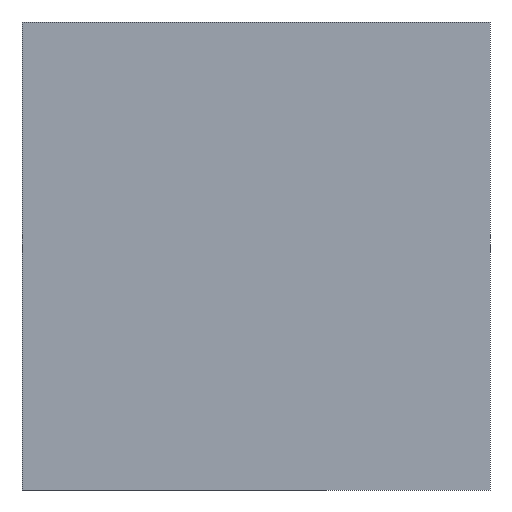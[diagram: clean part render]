
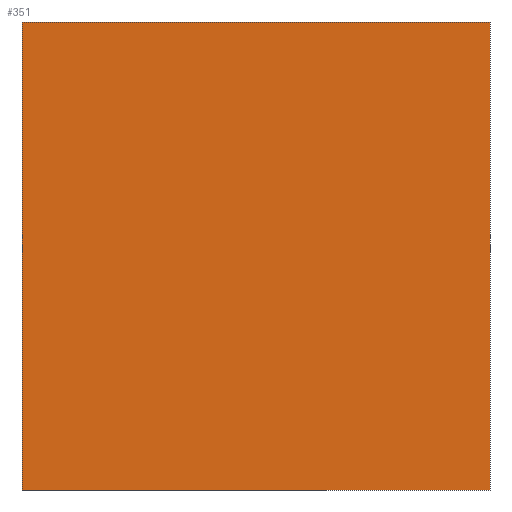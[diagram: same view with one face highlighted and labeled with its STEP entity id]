
A CAD part, left-side view. The second image highlights one B-rep face of the part: STEP entity #351.
In plain terms, the highlighted planar face has unit normal (-1, 0, 0).
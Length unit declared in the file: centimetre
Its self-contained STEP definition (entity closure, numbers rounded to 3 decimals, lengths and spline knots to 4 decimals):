
#26 = VERTEX_POINT ( 'NONE', #495 ) ;
#30 = VERTEX_POINT ( 'NONE', #498 ) ;
#51 = EDGE_CURVE ( 'NONE', #30, #233, #214, .T. ) ;
#59 = CARTESIAN_POINT ( 'NONE',  ( 0., 1000., 1000. ) ) ;
#61 = CARTESIAN_POINT ( 'NONE',  ( 0., 0., 0. ) ) ;
#65 = VECTOR ( 'NONE', #73, 100. ) ;
#73 = DIRECTION ( 'NONE',  ( 0., 0., -1. ) ) ;
#85 = PLANE ( 'NONE',  #117 ) ;
#117 = AXIS2_PLACEMENT_3D ( 'NONE', #443, #318, #152 ) ;
#121 = LINE ( 'NONE', #272, #422 ) ;
#124 = LINE ( 'NONE', #411, #65 ) ;
#152 = DIRECTION ( 'NONE',  ( 0., 0., -1. ) ) ;
#153 = ORIENTED_EDGE ( 'NONE', *, *, #159, .F. ) ;
#159 = EDGE_CURVE ( 'NONE', #30, #26, #432, .T. ) ;
#183 = VECTOR ( 'NONE', #256, 100. ) ;
#214 = LINE ( 'NONE', #298, #183 ) ;
#229 = VERTEX_POINT ( 'NONE', #61 ) ;
#233 = VERTEX_POINT ( 'NONE', #393 ) ;
#236 = DIRECTION ( 'NONE',  ( 0., -1., 0. ) ) ;
#238 = EDGE_LOOP ( 'NONE', ( #363, #277, #153, #285 ) ) ;
#256 = DIRECTION ( 'NONE',  ( 0., 0., -1. ) ) ;
#272 = CARTESIAN_POINT ( 'NONE',  ( 0., 1000., 0. ) ) ;
#277 = ORIENTED_EDGE ( 'NONE', *, *, #414, .F. ) ;
#285 = ORIENTED_EDGE ( 'NONE', *, *, #51, .T. ) ;
#295 = VECTOR ( 'NONE', #387, 100. ) ;
#298 = CARTESIAN_POINT ( 'NONE',  ( 0., 1000., 1000. ) ) ;
#318 = DIRECTION ( 'NONE',  ( 1., 0., 0. ) ) ;
#326 = FACE_OUTER_BOUND ( 'NONE', #238, .T. ) ;
#351 = ADVANCED_FACE ( 'NONE', ( #326 ), #85, .F. ) ;
#363 = ORIENTED_EDGE ( 'NONE', *, *, #427, .T. ) ;
#387 = DIRECTION ( 'NONE',  ( 0., -1., 0. ) ) ;
#393 = CARTESIAN_POINT ( 'NONE',  ( 0., 1000., 0. ) ) ;
#411 = CARTESIAN_POINT ( 'NONE',  ( 0., 0., 1000. ) ) ;
#414 = EDGE_CURVE ( 'NONE', #26, #229, #124, .T. ) ;
#422 = VECTOR ( 'NONE', #236, 100. ) ;
#427 = EDGE_CURVE ( 'NONE', #233, #229, #121, .T. ) ;
#432 = LINE ( 'NONE', #59, #295 ) ;
#443 = CARTESIAN_POINT ( 'NONE',  ( 0., 1000., 1000. ) ) ;
#495 = CARTESIAN_POINT ( 'NONE',  ( 0., 0., 1000. ) ) ;
#498 = CARTESIAN_POINT ( 'NONE',  ( 0., 1000., 1000. ) ) ;
